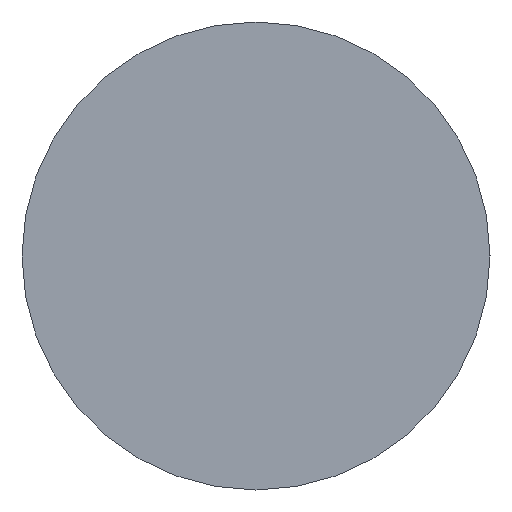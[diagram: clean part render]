
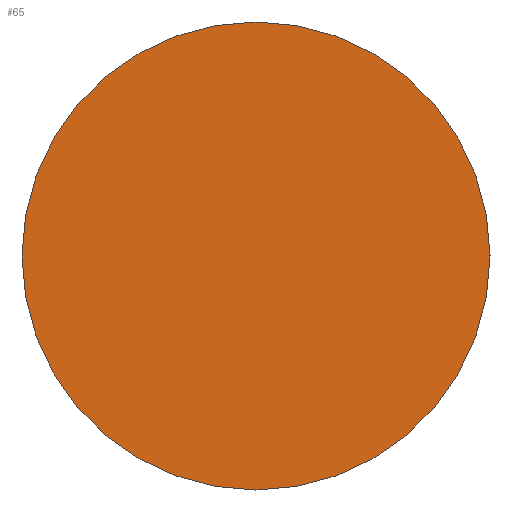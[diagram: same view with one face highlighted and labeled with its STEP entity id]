
A CAD part, left-side view. The second image highlights one B-rep face of the part: STEP entity #65.
In plain terms, the highlighted planar face has unit normal (-1, 0, 0).
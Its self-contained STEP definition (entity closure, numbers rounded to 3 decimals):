
#17=PLANE('',#97);
#22=FACE_OUTER_BOUND('',#28,.T.);
#28=EDGE_LOOP('',(#58));
#37=CIRCLE('',#96,21.2);
#41=VERTEX_POINT('',#132);
#46=EDGE_CURVE('',#41,#41,#37,.T.);
#58=ORIENTED_EDGE('',*,*,#46,.T.);
#65=ADVANCED_FACE('',(#22),#17,.T.);
#96=AXIS2_PLACEMENT_3D('',#133,#114,#115);
#97=AXIS2_PLACEMENT_3D('',#135,#117,#118);
#114=DIRECTION('center_axis',(-1.,0.,0.));
#115=DIRECTION('ref_axis',(0.,0.,1.));
#117=DIRECTION('center_axis',(-1.,0.,0.));
#118=DIRECTION('ref_axis',(0.,0.,1.));
#132=CARTESIAN_POINT('',(0.,-21.2,0.));
#133=CARTESIAN_POINT('Origin',(0.,0.,
0.));
#135=CARTESIAN_POINT('Origin',(0.,0.,0.));
